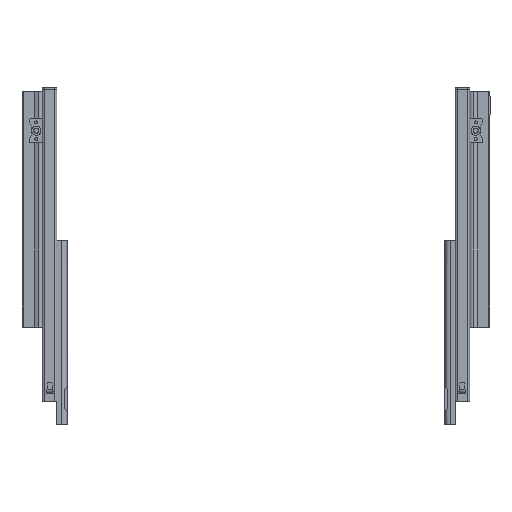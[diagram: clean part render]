
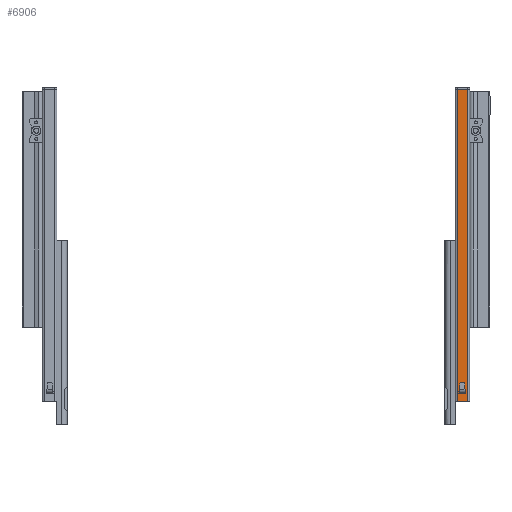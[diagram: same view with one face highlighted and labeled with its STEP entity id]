
A CAD part, front view. The second image highlights one B-rep face of the part: STEP entity #6906.
In plain terms, the highlighted planar face has unit normal (0, -1, 0).
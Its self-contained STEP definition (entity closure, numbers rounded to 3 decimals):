
#126=FACE_BOUND('',#950,.T.);
#516=FACE_OUTER_BOUND('',#949,.T.);
#949=EDGE_LOOP('',(#5133,#5134,#5135,#5136));
#950=EDGE_LOOP('',(#5137,#5138,#5139,#5140));
#1444=LINE('',#10423,#2074);
#1447=LINE('',#10429,#2077);
#1450=LINE('',#10461,#2080);
#1453=LINE('',#10468,#2083);
#1510=LINE('',#10655,#2140);
#1511=LINE('',#10659,#2141);
#1512=LINE('',#10661,#2142);
#1513=LINE('',#10662,#2143);
#2074=VECTOR('',#8436,10.);
#2077=VECTOR('',#8441,10.);
#2080=VECTOR('',#8446,10.);
#2083=VECTOR('',#8457,10.);
#2140=VECTOR('',#8648,10.);
#2141=VECTOR('',#8653,10.);
#2142=VECTOR('',#8654,10.);
#2143=VECTOR('',#8655,10.);
#2990=VERTEX_POINT('',#10420);
#2991=VERTEX_POINT('',#10422);
#2993=VERTEX_POINT('',#10428);
#2994=VERTEX_POINT('',#10460);
#3056=VERTEX_POINT('',#10652);
#3057=VERTEX_POINT('',#10654);
#3058=VERTEX_POINT('',#10658);
#3059=VERTEX_POINT('',#10660);
#3721=EDGE_CURVE('',#2990,#2991,#1444,.T.);
#3724=EDGE_CURVE('',#2991,#2993,#1447,.T.);
#3728=EDGE_CURVE('',#2993,#2994,#1450,.T.);
#3731=EDGE_CURVE('',#2994,#2990,#1453,.T.);
#3820=EDGE_CURVE('',#3056,#3057,#1510,.T.);
#3822=EDGE_CURVE('',#3056,#3058,#1511,.T.);
#3823=EDGE_CURVE('',#3058,#3059,#1512,.T.);
#3824=EDGE_CURVE('',#3059,#3057,#1513,.T.);
#5133=ORIENTED_EDGE('',*,*,#3822,.T.);
#5134=ORIENTED_EDGE('',*,*,#3823,.T.);
#5135=ORIENTED_EDGE('',*,*,#3824,.T.);
#5136=ORIENTED_EDGE('',*,*,#3820,.F.);
#5137=ORIENTED_EDGE('',*,*,#3721,.F.);
#5138=ORIENTED_EDGE('',*,*,#3731,.F.);
#5139=ORIENTED_EDGE('',*,*,#3728,.F.);
#5140=ORIENTED_EDGE('',*,*,#3724,.F.);
#6267=PLANE('',#7435);
#6906=ADVANCED_FACE('',(#516,#126),#6267,.F.);
#7435=AXIS2_PLACEMENT_3D('',#10657,#8651,#8652);
#8436=DIRECTION('',(0.,0.,-1.));
#8441=DIRECTION('',(1.,0.,0.));
#8446=DIRECTION('',(0.,0.,1.));
#8457=DIRECTION('',(-1.,0.,0.));
#8648=DIRECTION('',(0.,0.,-1.));
#8651=DIRECTION('center_axis',(0.,1.,0.));
#8652=DIRECTION('ref_axis',(1.,0.,0.));
#8653=DIRECTION('',(-1.,0.,0.));
#8654=DIRECTION('',(0.,0.,-1.));
#8655=DIRECTION('',(1.,0.,0.));
#10420=CARTESIAN_POINT('',(38.034,8.,-187.097));
#10422=CARTESIAN_POINT('',(38.034,8.,-188.597));
#10423=CARTESIAN_POINT('',(38.034,8.,-39.597));
#10428=CARTESIAN_POINT('',(44.652,8.,-188.597));
#10429=CARTESIAN_POINT('',(38.843,8.,-188.597));
#10460=CARTESIAN_POINT('',(44.652,8.,-187.097));
#10461=CARTESIAN_POINT('',(44.652,8.,-39.597));
#10468=CARTESIAN_POINT('',(38.843,8.,-187.097));
#10652=CARTESIAN_POINT('',(46.343,8.,107.903));
#10654=CARTESIAN_POINT('',(46.343,8.,-197.097));
#10655=CARTESIAN_POINT('',(46.343,8.,107.903));
#10657=CARTESIAN_POINT('Origin',(36.343,8.,107.903));
#10658=CARTESIAN_POINT('',(36.343,8.,107.903));
#10659=CARTESIAN_POINT('',(46.343,8.,107.903));
#10660=CARTESIAN_POINT('',(36.343,8.,-197.097));
#10661=CARTESIAN_POINT('',(36.343,8.,107.903));
#10662=CARTESIAN_POINT('',(46.343,8.,-197.097));
